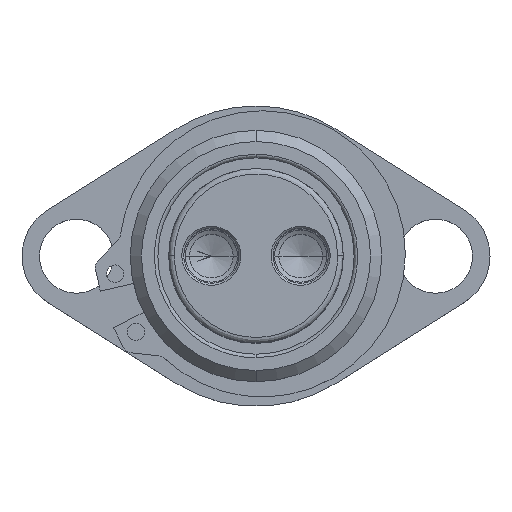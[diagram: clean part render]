
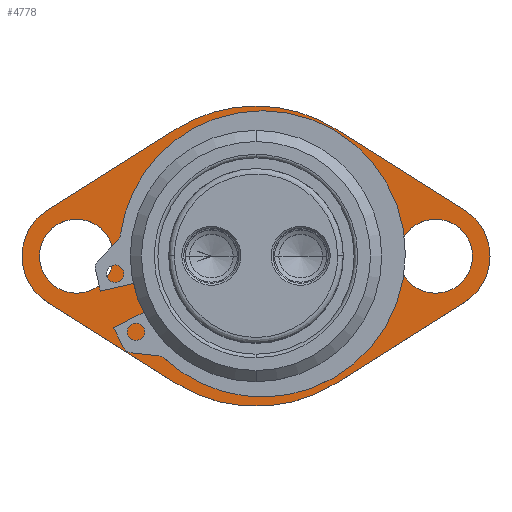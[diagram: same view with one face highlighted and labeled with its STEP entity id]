
A CAD part, top view. The second image highlights one B-rep face of the part: STEP entity #4778.
In plain terms, the highlighted planar face has unit normal (0, 0, 1) as drawn and (0, 1, 0) by its records, which use the part's own axes.
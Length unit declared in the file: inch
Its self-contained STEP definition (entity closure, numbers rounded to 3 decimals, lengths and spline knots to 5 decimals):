
#9 = EDGE_CURVE ( 'NONE', #5050, #5267, #1298, .T. ) ;
#28 = CARTESIAN_POINT ( 'NONE',  ( -0.57305, 0.25, 0.90952 ) ) ;
#54 = VERTEX_POINT ( 'NONE', #856 ) ;
#116 = VERTEX_POINT ( 'NONE', #1409 ) ;
#164 = EDGE_CURVE ( 'NONE', #54, #116, #264, .T. ) ;
#172 = CARTESIAN_POINT ( 'NONE',  ( 0., 0.25, -1.075 ) ) ;
#210 = AXIS2_PLACEMENT_3D ( 'NONE', #3756, #3744, #1152 ) ;
#230 = AXIS2_PLACEMENT_3D ( 'NONE', #3987, #1381, #3090 ) ;
#264 = CIRCLE ( 'NONE', #1405, 0.39 ) ;
#275 = EDGE_CURVE ( 'NONE', #939, #2908, #512, .T. ) ;
#372 = CIRCLE ( 'NONE', #4377, 0.265 ) ;
#385 = CARTESIAN_POINT ( 'NONE',  ( 1.285, 0.25, 0. ) ) ;
#451 = ORIENTED_EDGE ( 'NONE', *, *, #1721, .T. ) ;
#469 = CIRCLE ( 'NONE', #3964, 1.075 ) ;
#512 = CIRCLE ( 'NONE', #210, 1.075 ) ;
#669 = CARTESIAN_POINT ( 'NONE',  ( 0.57305, 0.25, 0.90952 ) ) ;
#720 = CARTESIAN_POINT ( 'NONE',  ( 1.285, 0.25, 0. ) ) ;
#772 = AXIS2_PLACEMENT_3D ( 'NONE', #720, #4579, #5418 ) ;
#801 = CARTESIAN_POINT ( 'NONE',  ( -1.285, 0.25, 0.265 ) ) ;
#856 = CARTESIAN_POINT ( 'NONE',  ( 1.4929, 0.25, -0.32997 ) ) ;
#904 = EDGE_CURVE ( 'NONE', #3255, #1862, #1546, .T. ) ;
#939 = VERTEX_POINT ( 'NONE', #172 ) ;
#950 = CARTESIAN_POINT ( 'NONE',  ( 0., 0.25, 0. ) ) ;
#969 = ORIENTED_EDGE ( 'NONE', *, *, #5545, .F. ) ;
#991 = CARTESIAN_POINT ( 'NONE',  ( 0.57305, 0.25, 0.90952 ) ) ;
#1037 = VECTOR ( 'NONE', #2177, 39.37008 ) ;
#1062 = CARTESIAN_POINT ( 'NONE',  ( 1.285, 0.25, 0.265 ) ) ;
#1123 = ORIENTED_EDGE ( 'NONE', *, *, #3429, .F. ) ;
#1144 = CIRCLE ( 'NONE', #772, 0.265 ) ;
#1152 = DIRECTION ( 'NONE',  ( 0., 0., -1. ) ) ;
#1164 = ORIENTED_EDGE ( 'NONE', *, *, #3666, .T. ) ;
#1205 = CARTESIAN_POINT ( 'NONE',  ( -1.285, 0.25, 0. ) ) ;
#1276 = CARTESIAN_POINT ( 'NONE',  ( 0.57305, 0.25, -0.90952 ) ) ;
#1298 = LINE ( 'NONE', #3810, #1037 ) ;
#1335 = DIRECTION ( 'NONE',  ( 0., -1., 0. ) ) ;
#1365 = ORIENTED_EDGE ( 'NONE', *, *, #275, .F. ) ;
#1381 = DIRECTION ( 'NONE',  ( 0., -1., 0. ) ) ;
#1405 = AXIS2_PLACEMENT_3D ( 'NONE', #4032, #2317, #4951 ) ;
#1409 = CARTESIAN_POINT ( 'NONE',  ( 1.4929, 0.25, 0.32997 ) ) ;
#1546 = CIRCLE ( 'NONE', #4499, 0.265 ) ;
#1650 = EDGE_CURVE ( 'NONE', #4910, #3881, #4372, .T. ) ;
#1714 = VECTOR ( 'NONE', #2265, 39.37008 ) ;
#1721 = EDGE_CURVE ( 'NONE', #4779, #3452, #372, .T. ) ;
#1729 = FACE_BOUND ( 'NONE', #3675, .T. ) ;
#1770 = CIRCLE ( 'NONE', #3287, 0.9 ) ;
#1812 = CARTESIAN_POINT ( 'NONE',  ( -1.285, 0.25, 0. ) ) ;
#1862 = VERTEX_POINT ( 'NONE', #5036 ) ;
#1990 = EDGE_LOOP ( 'NONE', ( #1164, #2061 ) ) ;
#2035 = DIRECTION ( 'NONE',  ( 0., 0., -1. ) ) ;
#2055 = EDGE_CURVE ( 'NONE', #3452, #4779, #1144, .T. ) ;
#2061 = ORIENTED_EDGE ( 'NONE', *, *, #904, .T. ) ;
#2108 = ORIENTED_EDGE ( 'NONE', *, *, #3414, .T. ) ;
#2145 = EDGE_CURVE ( 'NONE', #4766, #116, #3178, .T. ) ;
#2177 = DIRECTION ( 'NONE',  ( -0.846, 0., 0.533 ) ) ;
#2207 = DIRECTION ( 'NONE',  ( 0., -1., 0. ) ) ;
#2227 = VECTOR ( 'NONE', #4978, 39.37008 ) ;
#2255 = CARTESIAN_POINT ( 'NONE',  ( -1.4929, 0.25, -0.32997 ) ) ;
#2265 = DIRECTION ( 'NONE',  ( -0.846, 0., -0.533 ) ) ;
#2306 = AXIS2_PLACEMENT_3D ( 'NONE', #4520, #2429, #2849 ) ;
#2317 = DIRECTION ( 'NONE',  ( 0., -1., 0. ) ) ;
#2325 = VERTEX_POINT ( 'NONE', #28 ) ;
#2355 = CARTESIAN_POINT ( 'NONE',  ( -1.285, 0.25, 0. ) ) ;
#2390 = ORIENTED_EDGE ( 'NONE', *, *, #2420, .T. ) ;
#2420 = EDGE_CURVE ( 'NONE', #54, #2908, #2588, .T. ) ;
#2423 = CARTESIAN_POINT ( 'NONE',  ( -1.285, 0.25, 0. ) ) ;
#2429 = DIRECTION ( 'NONE',  ( 0., -1., 0. ) ) ;
#2474 = FACE_BOUND ( 'NONE', #4655, .T. ) ;
#2525 = CARTESIAN_POINT ( 'NONE',  ( -0.57305, 0.25, -0.90952 ) ) ;
#2588 = LINE ( 'NONE', #3573, #1714 ) ;
#2759 = ORIENTED_EDGE ( 'NONE', *, *, #164, .F. ) ;
#2775 = DIRECTION ( 'NONE',  ( 0., 0., -1. ) ) ;
#2849 = DIRECTION ( 'NONE',  ( 0., 0., -1. ) ) ;
#2871 = ORIENTED_EDGE ( 'NONE', *, *, #5518, .T. ) ;
#2875 = FACE_OUTER_BOUND ( 'NONE', #4939, .T. ) ;
#2908 = VERTEX_POINT ( 'NONE', #1276 ) ;
#2970 = AXIS2_PLACEMENT_3D ( 'NONE', #1812, #3072, #3580 ) ;
#2979 = DIRECTION ( 'NONE',  ( 0.846, 0., 0.533 ) ) ;
#3018 = FACE_BOUND ( 'NONE', #1990, .T. ) ;
#3071 = DIRECTION ( 'NONE',  ( 0., 0., -1. ) ) ;
#3072 = DIRECTION ( 'NONE',  ( 0., -1., 0. ) ) ;
#3090 = DIRECTION ( 'NONE',  ( 0., 0., -1. ) ) ;
#3119 = CARTESIAN_POINT ( 'NONE',  ( 0., 0.25, 0.9 ) ) ;
#3178 = LINE ( 'NONE', #669, #2227 ) ;
#3201 = CIRCLE ( 'NONE', #2970, 0.39 ) ;
#3255 = VERTEX_POINT ( 'NONE', #801 ) ;
#3265 = CARTESIAN_POINT ( 'NONE',  ( 0., 0.25, -0.9 ) ) ;
#3287 = AXIS2_PLACEMENT_3D ( 'NONE', #950, #1335, #3071 ) ;
#3343 = LINE ( 'NONE', #3909, #3478 ) ;
#3394 = AXIS2_PLACEMENT_3D ( 'NONE', #1205, #4653, #2035 ) ;
#3414 = EDGE_CURVE ( 'NONE', #3881, #4910, #1770, .T. ) ;
#3429 = EDGE_CURVE ( 'NONE', #5050, #939, #469, .T. ) ;
#3444 = DIRECTION ( 'NONE',  ( 0., 0., -1. ) ) ;
#3452 = VERTEX_POINT ( 'NONE', #1062 ) ;
#3478 = VECTOR ( 'NONE', #2979, 39.37008 ) ;
#3573 = CARTESIAN_POINT ( 'NONE',  ( 0.57305, 0.25, -0.90952 ) ) ;
#3574 = CARTESIAN_POINT ( 'NONE',  ( 1.285, 0.25, -0.265 ) ) ;
#3580 = DIRECTION ( 'NONE',  ( 0., 0., -1. ) ) ;
#3618 = CIRCLE ( 'NONE', #230, 1.075 ) ;
#3666 = EDGE_CURVE ( 'NONE', #1862, #3255, #4718, .T. ) ;
#3675 = EDGE_LOOP ( 'NONE', ( #5030, #2108 ) ) ;
#3707 = PLANE ( 'NONE',  #5178 ) ;
#3744 = DIRECTION ( 'NONE',  ( 0., -1., 0. ) ) ;
#3756 = CARTESIAN_POINT ( 'NONE',  ( 0., 0.25, 0. ) ) ;
#3810 = CARTESIAN_POINT ( 'NONE',  ( -1.4929, 0.25, -0.32997 ) ) ;
#3881 = VERTEX_POINT ( 'NONE', #3119 ) ;
#3909 = CARTESIAN_POINT ( 'NONE',  ( -1.4929, 0.25, 0.32997 ) ) ;
#3964 = AXIS2_PLACEMENT_3D ( 'NONE', #4770, #2207, #5191 ) ;
#3987 = CARTESIAN_POINT ( 'NONE',  ( 0., 0.25, 0. ) ) ;
#4032 = CARTESIAN_POINT ( 'NONE',  ( 1.285, 0.25, 0. ) ) ;
#4064 = ORIENTED_EDGE ( 'NONE', *, *, #2145, .T. ) ;
#4074 = DIRECTION ( 'NONE',  ( 0., -1., 0. ) ) ;
#4295 = ORIENTED_EDGE ( 'NONE', *, *, #9, .T. ) ;
#4372 = CIRCLE ( 'NONE', #2306, 0.9 ) ;
#4377 = AXIS2_PLACEMENT_3D ( 'NONE', #385, #5117, #3444 ) ;
#4468 = VERTEX_POINT ( 'NONE', #5434 ) ;
#4499 = AXIS2_PLACEMENT_3D ( 'NONE', #2355, #4074, #2775 ) ;
#4520 = CARTESIAN_POINT ( 'NONE',  ( 0., 0.25, 0. ) ) ;
#4579 = DIRECTION ( 'NONE',  ( 0., -1., 0. ) ) ;
#4586 = DIRECTION ( 'NONE',  ( 0., 0., 1. ) ) ;
#4653 = DIRECTION ( 'NONE',  ( 0., -1., 0. ) ) ;
#4655 = EDGE_LOOP ( 'NONE', ( #451, #5140 ) ) ;
#4718 = CIRCLE ( 'NONE', #3394, 0.265 ) ;
#4766 = VERTEX_POINT ( 'NONE', #991 ) ;
#4770 = CARTESIAN_POINT ( 'NONE',  ( 0., 0.25, 0. ) ) ;
#4778 = ADVANCED_FACE ( 'NONE', ( #3018, #2875, #2474, #1729 ), #3707, .T. ) ;
#4779 = VERTEX_POINT ( 'NONE', #3574 ) ;
#4910 = VERTEX_POINT ( 'NONE', #3265 ) ;
#4939 = EDGE_LOOP ( 'NONE', ( #1123, #4295, #969, #2871, #4997, #4064, #2759, #2390, #1365 ) ) ;
#4951 = DIRECTION ( 'NONE',  ( 0., 0., -1. ) ) ;
#4978 = DIRECTION ( 'NONE',  ( 0.846, 0., -0.533 ) ) ;
#4997 = ORIENTED_EDGE ( 'NONE', *, *, #5499, .F. ) ;
#5030 = ORIENTED_EDGE ( 'NONE', *, *, #1650, .T. ) ;
#5036 = CARTESIAN_POINT ( 'NONE',  ( -1.285, 0.25, -0.265 ) ) ;
#5050 = VERTEX_POINT ( 'NONE', #2525 ) ;
#5117 = DIRECTION ( 'NONE',  ( 0., -1., 0. ) ) ;
#5140 = ORIENTED_EDGE ( 'NONE', *, *, #2055, .T. ) ;
#5178 = AXIS2_PLACEMENT_3D ( 'NONE', #2423, #5361, #4586 ) ;
#5191 = DIRECTION ( 'NONE',  ( 0., 0., -1. ) ) ;
#5267 = VERTEX_POINT ( 'NONE', #2255 ) ;
#5361 = DIRECTION ( 'NONE',  ( 0., 1., 0. ) ) ;
#5418 = DIRECTION ( 'NONE',  ( 0., 0., -1. ) ) ;
#5434 = CARTESIAN_POINT ( 'NONE',  ( -1.4929, 0.25, 0.32997 ) ) ;
#5499 = EDGE_CURVE ( 'NONE', #4766, #2325, #3618, .T. ) ;
#5518 = EDGE_CURVE ( 'NONE', #4468, #2325, #3343, .T. ) ;
#5545 = EDGE_CURVE ( 'NONE', #4468, #5267, #3201, .T. ) ;
